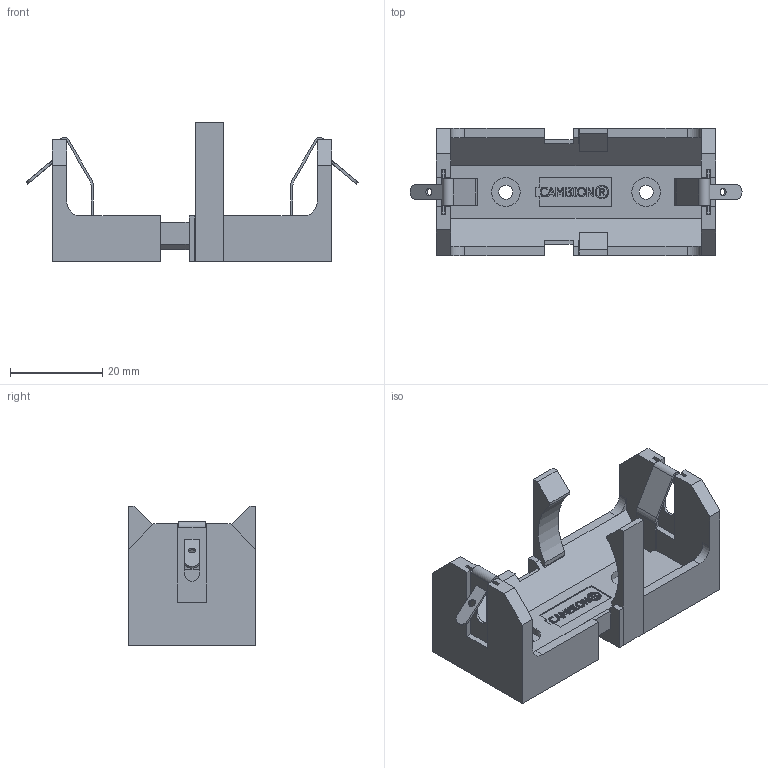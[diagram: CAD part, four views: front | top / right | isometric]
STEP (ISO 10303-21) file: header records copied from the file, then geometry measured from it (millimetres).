
FILE_DESCRIPTION(/* description */ (''),/* implementation_level */ '2;1');
FILE_NAME(/* name */ 'Z:\STEP folder\400-2800 Customer model.ipt.stp',/* time_stamp */ '2016-12-07T16:34:38+00:00',/* author */ ('paulk'),/* organization */ (''),/* preprocessor_version */ 'ST-DEVELOPER v15.2',/* originating_system */ 'Autodesk Inventor 2014',/* authorisation */ '');
FILE_SCHEMA (('AUTOMOTIVE_DESIGN { 1 0 10303 214 3 1 1 }'));
Length unit declared in the file: millimetre
Products named in the file (1): 400-2800 Customer model
Bounding box: 72.07 x 27.69 x 30.23 mm (x, y, z)
Volume: 9882.9 mm3; surface area: 11645.8 mm2
Topology: 3 solids, 3 shells, 379 faces, 1042 edges, 687 vertices
Faces by surface type: plane 289, bspline 52, cylinder 38
Full cylindrical faces by diameter (mm): 1.651 x2, 3.048 x2, 6.223 x2, 8.763 x2
Entity records: 12691 total; most frequent: CARTESIAN_POINT 2931, ORIENTED_EDGE 2066, DIRECTION 1661, EDGE_CURVE 1033, LINE 853, VECTOR 853, VERTEX_POINT 686, EDGE_LOOP 421
